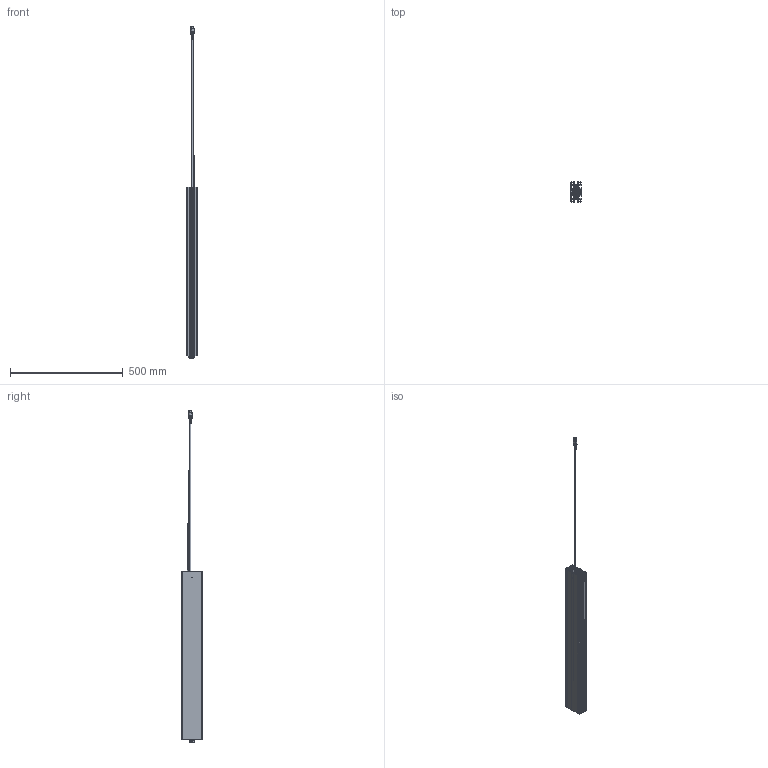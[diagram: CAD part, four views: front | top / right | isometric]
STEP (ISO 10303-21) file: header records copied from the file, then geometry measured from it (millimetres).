
FILE_DESCRIPTION (( 'STEP AP214' ), '1' );
FILE_NAME ('004 10275_ZB Actuator SMS-B 45x90_Hub400_eingefahren.STEP', '2018-09-03T09:10:17', ( '' ), ( '' ), 'SwSTEP 2.0', 'SolidWorks 2017', '' );
FILE_SCHEMA (( 'AUTOMOTIVE_DESIGN' ));
Length unit declared in the file: millimetre
Products named in the file (1): 004 10275_ZB Actuator SMS-B 45x90_Hub400_eingefahren
Bounding box: 45 x 90 x 1475.6 mm (x, y, z)
Surface area: 913104.2 mm2 (no closed solid volume)
Topology: 0 solids, 6 shells, 3001 faces, 8204 edges, 5056 vertices
Faces by surface type: plane 971, bspline 904, cylinder 716, cone 289, torus 81, sphere 40
Entity records: 163809 total; most frequent: CARTESIAN_POINT 86561, ORIENTED_EDGE 15944, DIRECTION 11325, EDGE_CURVE 7975, VERTEX_POINT 5053, AXIS2_PLACEMENT_3D 4224, EDGE_LOOP 3121, ADVANCED_FACE 3001
